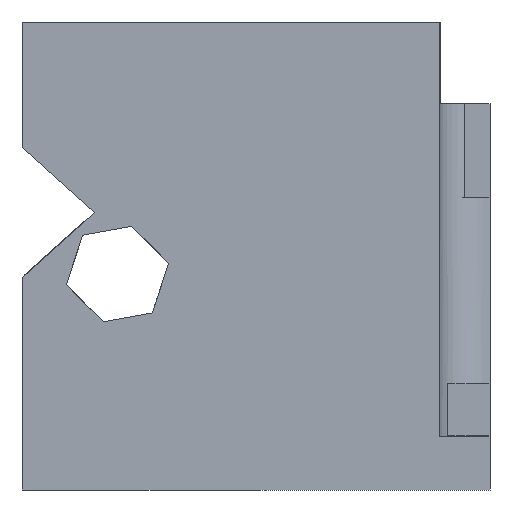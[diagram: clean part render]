
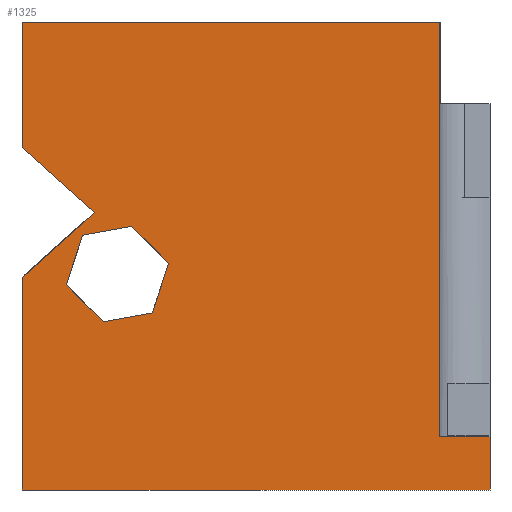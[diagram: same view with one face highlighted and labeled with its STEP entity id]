
A CAD part, left-side view. The second image highlights one B-rep face of the part: STEP entity #1325.
In plain terms, the highlighted planar face has unit normal (-1, 0, 0).
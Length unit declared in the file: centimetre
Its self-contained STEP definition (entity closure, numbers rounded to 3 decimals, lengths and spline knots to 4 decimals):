
#11 = CARTESIAN_POINT ( 'NONE',  ( 0., 1000., 1000. ) ) ;
#49 = EDGE_CURVE ( 'NONE', #804, #1406, #691, .T. ) ;
#59 = ORIENTED_EDGE ( 'NONE', *, *, #1109, .F. ) ;
#60 = DIRECTION ( 'NONE',  ( 0., -0.743, 0.669 ) ) ;
#66 = ORIENTED_EDGE ( 'NONE', *, *, #169, .F. ) ;
#83 = DIRECTION ( 'NONE',  ( 0., -0.707, -0.707 ) ) ;
#91 = VERTEX_POINT ( 'NONE', #1084 ) ;
#125 = LINE ( 'NONE', #618, #227 ) ;
#126 = ORIENTED_EDGE ( 'NONE', *, *, #49, .F. ) ;
#143 = LINE ( 'NONE', #1504, #1322 ) ;
#169 = EDGE_CURVE ( 'NONE', #440, #621, #324, .T. ) ;
#195 = CARTESIAN_POINT ( 'NONE',  ( 0., 826.3227, 359.5339 ) ) ;
#200 = AXIS2_PLACEMENT_3D ( 'NONE', #881, #1397, #481 ) ;
#227 = VECTOR ( 'NONE', #1514, 100. ) ;
#246 = DIRECTION ( 'NONE',  ( 0., 0.984, -0.178 ) ) ;
#264 = DIRECTION ( 'NONE',  ( 0., -0.309, 0.951 ) ) ;
#270 = EDGE_CURVE ( 'NONE', #690, #845, #970, .T. ) ;
#274 = LINE ( 'NONE', #772, #676 ) ;
#286 = CARTESIAN_POINT ( 'NONE',  ( 0., 870.598, 544.4698 ) ) ;
#297 = ORIENTED_EDGE ( 'NONE', *, *, #1404, .F. ) ;
#307 = VECTOR ( 'NONE', #1373, 100. ) ;
#313 = ORIENTED_EDGE ( 'NONE', *, *, #878, .T. ) ;
#324 = LINE ( 'NONE', #1569, #1070 ) ;
#350 = CARTESIAN_POINT ( 'NONE',  ( 0., 845.8172, 592.7299 ) ) ;
#358 = DIRECTION ( 'NONE',  ( 0., -1., 0. ) ) ;
#376 = LINE ( 'NONE', #1021, #307 ) ;
#401 = VERTEX_POINT ( 'NONE', #1267 ) ;
#403 = CARTESIAN_POINT ( 'NONE',  ( 0., 0., 113.702 ) ) ;
#431 = EDGE_CURVE ( 'NONE', #528, #91, #376, .T. ) ;
#440 = VERTEX_POINT ( 'NONE', #626 ) ;
#479 = EDGE_CURVE ( 'NONE', #1477, #1505, #274, .T. ) ;
#481 = DIRECTION ( 'NONE',  ( 0., 0., -1. ) ) ;
#483 = LINE ( 'NONE', #503, #1232 ) ;
#487 = VECTOR ( 'NONE', #358, 100. ) ;
#496 = EDGE_LOOP ( 'NONE', ( #693, #313, #66, #1453, #59, #126, #923, #1026, #297 ) ) ;
#501 = DIRECTION ( 'NONE',  ( 0., 0., -1. ) ) ;
#503 = CARTESIAN_POINT ( 'NONE',  ( 0., 765.5846, 563.4659 ) ) ;
#528 = VERTEX_POINT ( 'NONE', #286 ) ;
#536 = CARTESIAN_POINT ( 'NONE',  ( 0., 845.8172, 592.7299 ) ) ;
#542 = VERTEX_POINT ( 'NONE', #1054 ) ;
#581 = LINE ( 'NONE', #1484, #487 ) ;
#601 = EDGE_CURVE ( 'NONE', #542, #1256, #1537, .T. ) ;
#618 = CARTESIAN_POINT ( 'NONE',  ( 0., 0., 1000. ) ) ;
#621 = VERTEX_POINT ( 'NONE', #1421 ) ;
#626 = CARTESIAN_POINT ( 'NONE',  ( 0., 1000., 1000. ) ) ;
#632 = LINE ( 'NONE', #641, #799 ) ;
#641 = CARTESIAN_POINT ( 'NONE',  ( 0., 1000., 1000. ) ) ;
#676 = VECTOR ( 'NONE', #1274, 100. ) ;
#690 = VERTEX_POINT ( 'NONE', #1235 ) ;
#691 = LINE ( 'NONE', #1181, #1586 ) ;
#693 = ORIENTED_EDGE ( 'NONE', *, *, #479, .F. ) ;
#700 = LINE ( 'NONE', #1205, #1395 ) ;
#725 = PLANE ( 'NONE',  #200 ) ;
#753 = LINE ( 'NONE', #1130, #916 ) ;
#769 = EDGE_CURVE ( 'NONE', #845, #528, #483, .T. ) ;
#772 = CARTESIAN_POINT ( 'NONE',  ( 0., 1000., 113.702 ) ) ;
#782 = ORIENTED_EDGE ( 'NONE', *, *, #601, .F. ) ;
#783 = VERTEX_POINT ( 'NONE', #989 ) ;
#799 = VECTOR ( 'NONE', #1478, 100. ) ;
#804 = VERTEX_POINT ( 'NONE', #865 ) ;
#807 = DIRECTION ( 'NONE',  ( 0., 0.743, 0.669 ) ) ;
#825 = ORIENTED_EDGE ( 'NONE', *, *, #1121, .F. ) ;
#845 = VERTEX_POINT ( 'NONE', #1527 ) ;
#855 = VECTOR ( 'NONE', #1194, 100. ) ;
#860 = VECTOR ( 'NONE', #807, 100. ) ;
#865 = CARTESIAN_POINT ( 'NONE',  ( 0., 1000., 453.9471 ) ) ;
#868 = ORIENTED_EDGE ( 'NONE', *, *, #431, .F. ) ;
#873 = LINE ( 'NONE', #11, #1251 ) ;
#878 = EDGE_CURVE ( 'NONE', #1477, #621, #753, .T. ) ;
#881 = CARTESIAN_POINT ( 'NONE',  ( 0., 1000., 1000. ) ) ;
#892 = FACE_BOUND ( 'NONE', #1017, .T. ) ;
#916 = VECTOR ( 'NONE', #1141, 100. ) ;
#923 = ORIENTED_EDGE ( 'NONE', *, *, #1384, .T. ) ;
#932 = LINE ( 'NONE', #536, #860 ) ;
#970 = LINE ( 'NONE', #991, #1446 ) ;
#989 = CARTESIAN_POINT ( 'NONE',  ( 0., 1000., 731.5127 ) ) ;
#991 = CARTESIAN_POINT ( 'NONE',  ( 0., 686.7775, 484.6588 ) ) ;
#1010 = ORIENTED_EDGE ( 'NONE', *, *, #1455, .F. ) ;
#1017 = EDGE_LOOP ( 'NONE', ( #868, #1320, #1603, #1010, #782, #825 ) ) ;
#1021 = CARTESIAN_POINT ( 'NONE',  ( 0., 870.598, 544.4698 ) ) ;
#1026 = ORIENTED_EDGE ( 'NONE', *, *, #1317, .T. ) ;
#1054 = CARTESIAN_POINT ( 'NONE',  ( 0., 826.3227, 359.5339 ) ) ;
#1070 = VECTOR ( 'NONE', #1330, 100. ) ;
#1084 = CARTESIAN_POINT ( 'NONE',  ( 0., 905.1298, 438.341 ) ) ;
#1109 = EDGE_CURVE ( 'NONE', #1406, #783, #932, .T. ) ;
#1121 = EDGE_CURVE ( 'NONE', #91, #542, #700, .T. ) ;
#1130 = CARTESIAN_POINT ( 'NONE',  ( 0., 108.2515, 113.702 ) ) ;
#1141 = DIRECTION ( 'NONE',  ( 0., 0., 1. ) ) ;
#1181 = CARTESIAN_POINT ( 'NONE',  ( 0., 1000., 453.9471 ) ) ;
#1194 = DIRECTION ( 'NONE',  ( 0., -0.984, 0.178 ) ) ;
#1205 = CARTESIAN_POINT ( 'NONE',  ( 0., 905.1298, 438.341 ) ) ;
#1232 = VECTOR ( 'NONE', #246, 100. ) ;
#1235 = CARTESIAN_POINT ( 'NONE',  ( 0., 686.7775, 484.6588 ) ) ;
#1243 = FACE_OUTER_BOUND ( 'NONE', #496, .T. ) ;
#1251 = VECTOR ( 'NONE', #501, 100. ) ;
#1256 = VERTEX_POINT ( 'NONE', #1374 ) ;
#1257 = DIRECTION ( 'NONE',  ( 0., 0.707, 0.707 ) ) ;
#1267 = CARTESIAN_POINT ( 'NONE',  ( 0., 0., 0. ) ) ;
#1274 = DIRECTION ( 'NONE',  ( 0., -1., 0. ) ) ;
#1317 = EDGE_CURVE ( 'NONE', #1508, #401, #581, .T. ) ;
#1320 = ORIENTED_EDGE ( 'NONE', *, *, #769, .F. ) ;
#1322 = VECTOR ( 'NONE', #264, 100. ) ;
#1325 = ADVANCED_FACE ( 'NONE', ( #892, #1243 ), #725, .F. ) ;
#1330 = DIRECTION ( 'NONE',  ( 0., -1., 0. ) ) ;
#1373 = DIRECTION ( 'NONE',  ( 0., 0.309, -0.951 ) ) ;
#1374 = CARTESIAN_POINT ( 'NONE',  ( 0., 721.3094, 378.53 ) ) ;
#1384 = EDGE_CURVE ( 'NONE', #804, #1508, #632, .T. ) ;
#1395 = VECTOR ( 'NONE', #83, 100. ) ;
#1397 = DIRECTION ( 'NONE',  ( 1., 0., 0. ) ) ;
#1404 = EDGE_CURVE ( 'NONE', #1505, #401, #125, .T. ) ;
#1406 = VERTEX_POINT ( 'NONE', #350 ) ;
#1421 = CARTESIAN_POINT ( 'NONE',  ( 0., 108.2515, 1000. ) ) ;
#1446 = VECTOR ( 'NONE', #1257, 100. ) ;
#1448 = EDGE_CURVE ( 'NONE', #440, #783, #873, .T. ) ;
#1453 = ORIENTED_EDGE ( 'NONE', *, *, #1448, .T. ) ;
#1455 = EDGE_CURVE ( 'NONE', #1256, #690, #143, .T. ) ;
#1477 = VERTEX_POINT ( 'NONE', #1529 ) ;
#1478 = DIRECTION ( 'NONE',  ( 0., 0., -1. ) ) ;
#1484 = CARTESIAN_POINT ( 'NONE',  ( 0., 1000., 0. ) ) ;
#1504 = CARTESIAN_POINT ( 'NONE',  ( 0., 721.3094, 378.53 ) ) ;
#1505 = VERTEX_POINT ( 'NONE', #403 ) ;
#1508 = VERTEX_POINT ( 'NONE', #1546 ) ;
#1514 = DIRECTION ( 'NONE',  ( 0., 0., -1. ) ) ;
#1527 = CARTESIAN_POINT ( 'NONE',  ( 0., 765.5846, 563.4659 ) ) ;
#1529 = CARTESIAN_POINT ( 'NONE',  ( 0., 108.2515, 113.702 ) ) ;
#1537 = LINE ( 'NONE', #195, #855 ) ;
#1546 = CARTESIAN_POINT ( 'NONE',  ( 0., 1000., 0. ) ) ;
#1569 = CARTESIAN_POINT ( 'NONE',  ( 0., 1000., 1000. ) ) ;
#1586 = VECTOR ( 'NONE', #60, 100. ) ;
#1603 = ORIENTED_EDGE ( 'NONE', *, *, #270, .F. ) ;
